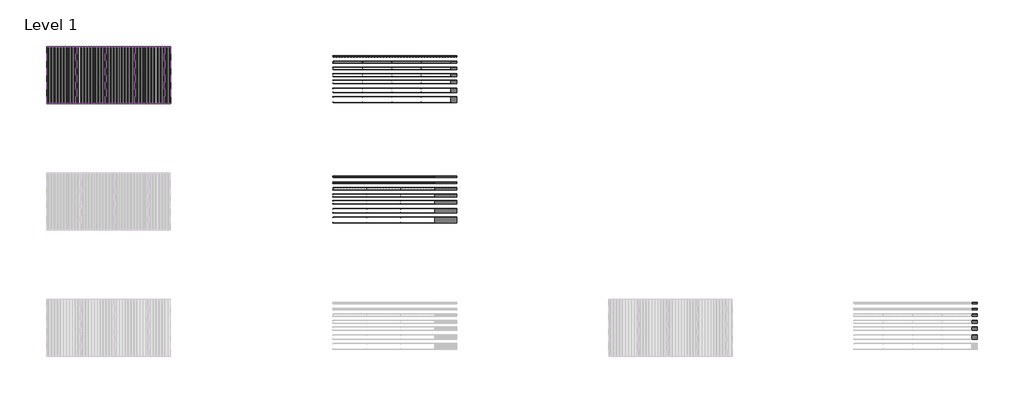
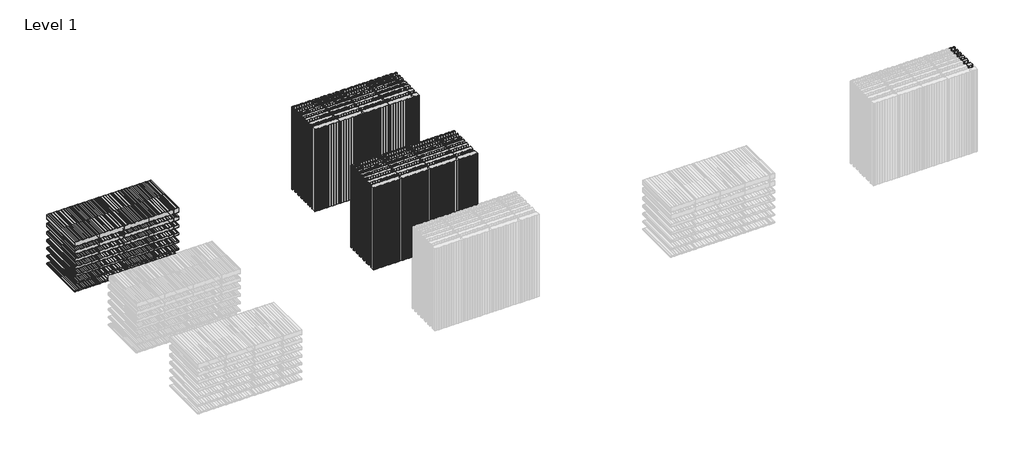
# One storey, part 4 of 4: 104 plates.
"""IFC4 building model written with IfcOpenShell, lengths in millimetres."""

from ifc_helpers import new_model, si_unit, origin, place, context, project, spatial, transform, mapped, element, save
from components import plate_e2519dcc, plate_03b74a93, plate_058e40cf, plate_00faa93f, plate_37207b8e, plate_48b56e83, plate_bfad9969, plate_df710713, plate_73a2f7ae, plate_e8205904, plate_b975286f, plate_f3e37640, plate_21ab614c, plate_76a87134, plate_eed5d6d7, plate_fe154885, plate_0c18fdb0, plate_14de9cfa, plate_5e7b8410, plate_5d81f6bc, plate_d92086c8, plate_5d0e5f40, plate_c8ef7cc6, plate_c1a73980, plate_863052c6, plate_1fcd82a8, plate_dd2a4387, plate_208f2f02, pm1_curtain_panel_746ca4a7, pm1_curtain_panel_331eded3, pm1_curtain_panel_a6e44ccd, pm1_curtain_panel_9475321e, pm1_curtain_panel_b305cc81, pm1_curtain_panel_808d0dd5, pm1_curtain_panel_095ba34b, pm1_curtain_panel_fd7bc9c6, pm1_curtain_panel_e5e13730, pm1_curtain_panel_c46ebac7, pm1_curtain_panel_94fae08d, pm1_curtain_panel_9f690ffb, pm1_curtain_panel_dddb3a22, pm1_curtain_panel_7c5191db, pmh_curtain_panel_micro_ribbed_profile_7f007963, pmh_curtain_panel_micro_ribbed_profile_d62956a7, pmh_curtain_panel_micro_ribbed_profile_b40cf5fc, pmh_curtain_panel_micro_ribbed_profile_82d1a99d, pmh_curtain_panel_micro_ribbed_profile_7fa3ddbd, pmh_curtain_panel_micro_ribbed_profile_9c5b0974

model = new_model("IFC4")

# Units and contexts
model_context = context("Model", 3, world=origin())
ifc_project = project(units=[si_unit("LENGTHUNIT", "METRE", prefix="MILLI")], contexts=[model_context])

# Site, building, storey
site = spatial("IfcSite", under=ifc_project)
building = spatial("IfcBuilding", under=site)
storey = spatial("IfcBuildingStorey", under=building, Name="Level 1", Elevation=0.0)

# Plates
placement = place(None, origin())
plate_shape = plate_e2519dcc(model_context)
element("IfcPlate", 1, ObjectType="PMH_Curtain-PaneL-Standard : ACH_PMH_Stone-wool-Panel_60M", at=placement, inside=storey, context=model_context, shape_type="MappedRepresentation", body=[
    mapped(plate_shape, transform((-10804.4132588, 5320.6868121, 0.0), x_axis=(1.0, 0.0, 0.0), y_axis=(0.0, 1.0, 0.0), z_axis=(0.0, 0.0, 1.0))),
])
element("IfcPlate", 2, ObjectType="PMH_Curtain-PaneL-Standard : ACH_PMH_Stone-wool-Panel_60M", at=placement, inside=storey, context=model_context, shape_type="MappedRepresentation", body=[
    mapped(plate_shape, transform((-9804.4132588, 5320.6868121, 0.0), x_axis=(1.0, 0.0, 0.0), y_axis=(0.0, 1.0, 0.0), z_axis=(0.0, 0.0, 1.0))),
])
element("IfcPlate", 3, ObjectType="PMH_Curtain-PaneL-Standard : ACH_PMH_Stone-wool-Panel_60M", at=placement, inside=storey, context=model_context, shape_type="MappedRepresentation", body=[
    mapped(plate_shape, transform((-8804.4132588, 5320.6868121, 0.0), x_axis=(1.0, 0.0, 0.0), y_axis=(0.0, 1.0, 0.0), z_axis=(0.0, 0.0, 1.0))),
])
element("IfcPlate", 4, ObjectType="PMH_Curtain-PaneL-Standard : ACH_PMH_Stone-wool-Panel_60M", at=placement, inside=storey, context=model_context, shape_type="MappedRepresentation", body=[
    mapped(plate_shape, transform((-7804.4132588, 5320.6868121, 0.0), x_axis=(1.0, 0.0, 0.0), y_axis=(0.0, 1.0, 0.0), z_axis=(0.0, 0.0, 1.0))),
])
plate_2_shape = plate_03b74a93(model_context)
element("IfcPlate", 5, ObjectType="PMH_Curtain-PaneL-Standard : ACH_PMH_Stone-wool-Panel_80M", at=placement, inside=storey, context=model_context, shape_type="MappedRepresentation", body=[
    mapped(plate_2_shape, transform((-10804.4132588, 5120.6868121, 0.0), x_axis=(1.0, 0.0, 0.0), y_axis=(0.0, 1.0, 0.0), z_axis=(0.0, 0.0, 1.0))),
])
element("IfcPlate", 6, ObjectType="PMH_Curtain-PaneL-Standard : ACH_PMH_Stone-wool-Panel_80M", at=placement, inside=storey, context=model_context, shape_type="MappedRepresentation", body=[
    mapped(plate_2_shape, transform((-9804.4132588, 5120.6868121, 0.0), x_axis=(1.0, 0.0, 0.0), y_axis=(0.0, 1.0, 0.0), z_axis=(0.0, 0.0, 1.0))),
])
element("IfcPlate", 7, ObjectType="PMH_Curtain-PaneL-Standard : ACH_PMH_Stone-wool-Panel_80M", at=placement, inside=storey, context=model_context, shape_type="MappedRepresentation", body=[
    mapped(plate_2_shape, transform((-8804.4132588, 5120.6868121, 0.0), x_axis=(1.0, 0.0, 0.0), y_axis=(0.0, 1.0, 0.0), z_axis=(0.0, 0.0, 1.0))),
])
element("IfcPlate", 8, ObjectType="PMH_Curtain-PaneL-Standard : ACH_PMH_Stone-wool-Panel_80M", at=placement, inside=storey, context=model_context, shape_type="MappedRepresentation", body=[
    mapped(plate_2_shape, transform((-7804.4132588, 5120.6868121, 0.0), x_axis=(1.0, 0.0, 0.0), y_axis=(0.0, 1.0, 0.0), z_axis=(0.0, 0.0, 1.0))),
])
plate_3_shape = plate_058e40cf(model_context)
element("IfcPlate", 9, ObjectType="PMH_Curtain-PaneL-Standard : ACH_PMH_Stone-wool-Panel_50M", at=placement, inside=storey, context=model_context, shape_type="MappedRepresentation", body=[
    mapped(plate_3_shape, transform((-10804.4132588, 5520.6868121, 0.0), x_axis=(1.0, 0.0, 0.0), y_axis=(0.0, 1.0, 0.0), z_axis=(0.0, 0.0, 1.0))),
])
element("IfcPlate", 10, ObjectType="PMH_Curtain-PaneL-Standard : ACH_PMH_Stone-wool-Panel_50M", at=placement, inside=storey, context=model_context, shape_type="MappedRepresentation", body=[
    mapped(plate_3_shape, transform((-9804.4132588, 5520.6868121, 0.0), x_axis=(1.0, 0.0, 0.0), y_axis=(0.0, 1.0, 0.0), z_axis=(0.0, 0.0, 1.0))),
])
element("IfcPlate", 11, ObjectType="PMH_Curtain-PaneL-Standard : ACH_PMH_Stone-wool-Panel_50M", at=placement, inside=storey, context=model_context, shape_type="MappedRepresentation", body=[
    mapped(plate_3_shape, transform((-8804.4132588, 5520.6868121, 0.0), x_axis=(1.0, 0.0, 0.0), y_axis=(0.0, 1.0, 0.0), z_axis=(0.0, 0.0, 1.0))),
])
element("IfcPlate", 12, ObjectType="PMH_Curtain-PaneL-Standard : ACH_PMH_Stone-wool-Panel_50M", at=placement, inside=storey, context=model_context, shape_type="MappedRepresentation", body=[
    mapped(plate_3_shape, transform((-7804.4132588, 5520.6868121, 0.0), x_axis=(1.0, 0.0, 0.0), y_axis=(0.0, 1.0, 0.0), z_axis=(0.0, 0.0, 1.0))),
])
plate_4_shape = plate_00faa93f(model_context)
element("IfcPlate", 13, ObjectType="PMH_Curtain-PaneL-Standard : ACH_PMH_Stone-wool-Panel_100M", at=placement, inside=storey, context=model_context, shape_type="MappedRepresentation", body=[
    mapped(plate_4_shape, transform((-10804.4132588, 4904.8868121, 0.0), x_axis=(1.0, 0.0, 0.0), y_axis=(0.0, 1.0, 0.0), z_axis=(0.0, 0.0, 1.0))),
])
element("IfcPlate", 14, ObjectType="PMH_Curtain-PaneL-Standard : ACH_PMH_Stone-wool-Panel_100M", at=placement, inside=storey, context=model_context, shape_type="MappedRepresentation", body=[
    mapped(plate_4_shape, transform((-9804.4132588, 4904.8868121, 0.0), x_axis=(1.0, 0.0, 0.0), y_axis=(0.0, 1.0, 0.0), z_axis=(0.0, 0.0, 1.0))),
])
element("IfcPlate", 15, ObjectType="PMH_Curtain-PaneL-Standard : ACH_PMH_Stone-wool-Panel_100M", at=placement, inside=storey, context=model_context, shape_type="MappedRepresentation", body=[
    mapped(plate_4_shape, transform((-8804.4132588, 4904.8868121, 0.0), x_axis=(1.0, 0.0, 0.0), y_axis=(0.0, 1.0, 0.0), z_axis=(0.0, 0.0, 1.0))),
])
element("IfcPlate", 16, ObjectType="PMH_Curtain-PaneL-Standard : ACH_PMH_Stone-wool-Panel_100M", at=placement, inside=storey, context=model_context, shape_type="MappedRepresentation", body=[
    mapped(plate_4_shape, transform((-7804.4132588, 4904.8868121, 0.0), x_axis=(1.0, 0.0, 0.0), y_axis=(0.0, 1.0, 0.0), z_axis=(0.0, 0.0, 1.0))),
])
plate_5_shape = plate_37207b8e(model_context)
element("IfcPlate", 17, ObjectType="PMH_Curtain-PaneL-Standard : ACH_PMH_Stone-wool-Panel_120M", at=placement, inside=storey, context=model_context, shape_type="MappedRepresentation", body=[
    mapped(plate_5_shape, transform((-10804.4132588, 4684.8868121, 0.0), x_axis=(1.0, 0.0, 0.0), y_axis=(0.0, 1.0, 0.0), z_axis=(0.0, 0.0, 1.0))),
])
element("IfcPlate", 18, ObjectType="PMH_Curtain-PaneL-Standard : ACH_PMH_Stone-wool-Panel_120M", at=placement, inside=storey, context=model_context, shape_type="MappedRepresentation", body=[
    mapped(plate_5_shape, transform((-9804.4132588, 4684.8868121, 0.0), x_axis=(1.0, 0.0, 0.0), y_axis=(0.0, 1.0, 0.0), z_axis=(0.0, 0.0, 1.0))),
])
element("IfcPlate", 19, ObjectType="PMH_Curtain-PaneL-Standard : ACH_PMH_Stone-wool-Panel_120M", at=placement, inside=storey, context=model_context, shape_type="MappedRepresentation", body=[
    mapped(plate_5_shape, transform((-8804.4132588, 4684.8868121, 0.0), x_axis=(1.0, 0.0, 0.0), y_axis=(0.0, 1.0, 0.0), z_axis=(0.0, 0.0, 1.0))),
])
element("IfcPlate", 20, ObjectType="PMH_Curtain-PaneL-Standard : ACH_PMH_Stone-wool-Panel_120M", at=placement, inside=storey, context=model_context, shape_type="MappedRepresentation", body=[
    mapped(plate_5_shape, transform((-7804.4132588, 4684.8868121, 0.0), x_axis=(1.0, 0.0, 0.0), y_axis=(0.0, 1.0, 0.0), z_axis=(0.0, 0.0, 1.0))),
])
plate_6_shape = plate_48b56e83(model_context)
element("IfcPlate", 21, ObjectType="PMH_Curtain-PaneL-Standard : ACH_PMH_Stone-wool-Panel_150M", at=placement, inside=storey, context=model_context, shape_type="MappedRepresentation", body=[
    mapped(plate_6_shape, transform((-10804.4132588, 4409.8868121, 0.0), x_axis=(1.0, 0.0, 0.0), y_axis=(0.0, 1.0, 0.0), z_axis=(0.0, 0.0, 1.0))),
])
element("IfcPlate", 22, ObjectType="PMH_Curtain-PaneL-Standard : ACH_PMH_Stone-wool-Panel_150M", at=placement, inside=storey, context=model_context, shape_type="MappedRepresentation", body=[
    mapped(plate_6_shape, transform((-9804.4132588, 4409.8868121, 0.0), x_axis=(1.0, 0.0, 0.0), y_axis=(0.0, 1.0, 0.0), z_axis=(0.0, 0.0, 1.0))),
])
element("IfcPlate", 23, ObjectType="PMH_Curtain-PaneL-Standard : ACH_PMH_Stone-wool-Panel_150M", at=placement, inside=storey, context=model_context, shape_type="MappedRepresentation", body=[
    mapped(plate_6_shape, transform((-8804.4132588, 4409.8868121, 0.0), x_axis=(1.0, 0.0, 0.0), y_axis=(0.0, 1.0, 0.0), z_axis=(0.0, 0.0, 1.0))),
])
element("IfcPlate", 24, ObjectType="PMH_Curtain-PaneL-Standard : ACH_PMH_Stone-wool-Panel_150M", at=placement, inside=storey, context=model_context, shape_type="MappedRepresentation", body=[
    mapped(plate_6_shape, transform((-7804.4132588, 4409.8868121, 0.0), x_axis=(1.0, 0.0, 0.0), y_axis=(0.0, 1.0, 0.0), z_axis=(0.0, 0.0, 1.0))),
])
plate_7_shape = plate_bfad9969(model_context)
element("IfcPlate", 25, ObjectType="PMH_Curtain-PaneL-Standard : ACH_PMH_Stone-wool-Panel_200M", at=placement, inside=storey, context=model_context, shape_type="MappedRepresentation", body=[
    mapped(plate_7_shape, transform((-10804.4132588, 4119.8868121, 0.0), x_axis=(1.0, 0.0, 0.0), y_axis=(0.0, 1.0, 0.0), z_axis=(0.0, 0.0, 1.0))),
])
element("IfcPlate", 26, ObjectType="PMH_Curtain-PaneL-Standard : ACH_PMH_Stone-wool-Panel_200M", at=placement, inside=storey, context=model_context, shape_type="MappedRepresentation", body=[
    mapped(plate_7_shape, transform((-9804.4132588, 4119.8868121, 0.0), x_axis=(1.0, 0.0, 0.0), y_axis=(0.0, 1.0, 0.0), z_axis=(0.0, 0.0, 1.0))),
])
element("IfcPlate", 27, ObjectType="PMH_Curtain-PaneL-Standard : ACH_PMH_Stone-wool-Panel_200M", at=placement, inside=storey, context=model_context, shape_type="MappedRepresentation", body=[
    mapped(plate_7_shape, transform((-8804.4132588, 4119.8868121, 0.0), x_axis=(1.0, 0.0, 0.0), y_axis=(0.0, 1.0, 0.0), z_axis=(0.0, 0.0, 1.0))),
])
element("IfcPlate", 28, ObjectType="PMH_Curtain-PaneL-Standard : ACH_PMH_Stone-wool-Panel_200M", at=placement, inside=storey, context=model_context, shape_type="MappedRepresentation", body=[
    mapped(plate_7_shape, transform((-7804.4132588, 4119.8868121, 0.0), x_axis=(1.0, 0.0, 0.0), y_axis=(0.0, 1.0, 0.0), z_axis=(0.0, 0.0, 1.0))),
])
plate_8_shape = plate_df710713(model_context)
element("IfcPlate", 29, ObjectType="PMH_Curtain-PaneL-Standard : ACH_PMH_Stone-wool-Panel_50M", at=placement, inside=storey, context=model_context, shape_type="MappedRepresentation", body=[
    mapped(plate_8_shape, transform((-20532.9364012, 3880.2855492, 0.0), x_axis=(1.0, 0.0, 0.0), y_axis=(0.0, 0.0, -1.0), z_axis=(0.0, 1.0, 0.0))),
])
element("IfcPlate", 30, ObjectType="PMH_Curtain-PaneL-Standard : ACH_PMH_Stone-wool-Panel_50M", at=placement, inside=storey, context=model_context, shape_type="MappedRepresentation", body=[
    mapped(plate_8_shape, transform((-19532.9364012, 3880.2855492, 0.0), x_axis=(1.0, 0.0, 0.0), y_axis=(0.0, 0.0, -1.0), z_axis=(0.0, 1.0, 0.0))),
])
element("IfcPlate", 31, ObjectType="PMH_Curtain-PaneL-Standard : ACH_PMH_Stone-wool-Panel_50M", at=placement, inside=storey, context=model_context, shape_type="MappedRepresentation", body=[
    mapped(plate_8_shape, transform((-18532.9364012, 3880.2855492, 0.0), x_axis=(1.0, 0.0, 0.0), y_axis=(0.0, 0.0, -1.0), z_axis=(0.0, 1.0, 0.0))),
])
element("IfcPlate", 32, ObjectType="PMH_Curtain-PaneL-Standard : ACH_PMH_Stone-wool-Panel_50M", at=placement, inside=storey, context=model_context, shape_type="MappedRepresentation", body=[
    mapped(plate_8_shape, transform((-17532.9364012, 3880.2855492, 0.0), x_axis=(1.0, 0.0, 0.0), y_axis=(0.0, 0.0, -1.0), z_axis=(0.0, 1.0, 0.0))),
])
plate_9_shape = plate_73a2f7ae(model_context)
element("IfcPlate", 33, ObjectType="PMH_Curtain-PaneL-Standard : ACH_PMH_Stone-wool-Panel_60M", at=placement, inside=storey, context=model_context, shape_type="MappedRepresentation", body=[
    mapped(plate_9_shape, transform((-20532.9364012, 3880.2855492, 320.0), x_axis=(1.0, 0.0, 0.0), y_axis=(0.0, 0.0, -1.0), z_axis=(0.0, 1.0, 0.0))),
])
element("IfcPlate", 34, ObjectType="PMH_Curtain-PaneL-Standard : ACH_PMH_Stone-wool-Panel_60M", at=placement, inside=storey, context=model_context, shape_type="MappedRepresentation", body=[
    mapped(plate_9_shape, transform((-19532.9364012, 3880.2855492, 320.0), x_axis=(1.0, 0.0, 0.0), y_axis=(0.0, 0.0, -1.0), z_axis=(0.0, 1.0, 0.0))),
])
element("IfcPlate", 35, ObjectType="PMH_Curtain-PaneL-Standard : ACH_PMH_Stone-wool-Panel_60M", at=placement, inside=storey, context=model_context, shape_type="MappedRepresentation", body=[
    mapped(plate_9_shape, transform((-18532.9364012, 3880.2855492, 320.0), x_axis=(1.0, 0.0, 0.0), y_axis=(0.0, 0.0, -1.0), z_axis=(0.0, 1.0, 0.0))),
])
element("IfcPlate", 36, ObjectType="PMH_Curtain-PaneL-Standard : ACH_PMH_Stone-wool-Panel_60M", at=placement, inside=storey, context=model_context, shape_type="MappedRepresentation", body=[
    mapped(plate_9_shape, transform((-17532.9364012, 3880.2855492, 320.0), x_axis=(1.0, 0.0, 0.0), y_axis=(0.0, 0.0, -1.0), z_axis=(0.0, 1.0, 0.0))),
])
plate_10_shape = plate_e8205904(model_context)
element("IfcPlate", 37, ObjectType="PMH_Curtain-PaneL-Standard : ACH_PMH_Stone-wool-Panel_80M", at=placement, inside=storey, context=model_context, shape_type="MappedRepresentation", body=[
    mapped(plate_10_shape, transform((-20532.9364012, 3880.2855492, 640.0), x_axis=(1.0, 0.0, 0.0), y_axis=(0.0, 0.0, -1.0), z_axis=(0.0, 1.0, 0.0))),
])
element("IfcPlate", 38, ObjectType="PMH_Curtain-PaneL-Standard : ACH_PMH_Stone-wool-Panel_80M", at=placement, inside=storey, context=model_context, shape_type="MappedRepresentation", body=[
    mapped(plate_10_shape, transform((-19532.9364012, 3880.2855492, 640.0), x_axis=(1.0, 0.0, 0.0), y_axis=(0.0, 0.0, -1.0), z_axis=(0.0, 1.0, 0.0))),
])
element("IfcPlate", 39, ObjectType="PMH_Curtain-PaneL-Standard : ACH_PMH_Stone-wool-Panel_80M", at=placement, inside=storey, context=model_context, shape_type="MappedRepresentation", body=[
    mapped(plate_10_shape, transform((-18532.9364012, 3880.2855492, 640.0), x_axis=(1.0, 0.0, 0.0), y_axis=(0.0, 0.0, -1.0), z_axis=(0.0, 1.0, 0.0))),
])
element("IfcPlate", 40, ObjectType="PMH_Curtain-PaneL-Standard : ACH_PMH_Stone-wool-Panel_80M", at=placement, inside=storey, context=model_context, shape_type="MappedRepresentation", body=[
    mapped(plate_10_shape, transform((-17532.9364012, 3880.2855492, 640.0), x_axis=(1.0, 0.0, 0.0), y_axis=(0.0, 0.0, -1.0), z_axis=(0.0, 1.0, 0.0))),
])
plate_11_shape = plate_b975286f(model_context)
element("IfcPlate", 41, ObjectType="PMH_Curtain-PaneL-Standard : ACH_PMH_Stone-wool-Panel_100M", at=placement, inside=storey, context=model_context, shape_type="MappedRepresentation", body=[
    mapped(plate_11_shape, transform((-20532.9364012, 3880.2855492, 960.0), x_axis=(1.0, 0.0, 0.0), y_axis=(0.0, 0.0, -1.0), z_axis=(0.0, 1.0, 0.0))),
])
element("IfcPlate", 42, ObjectType="PMH_Curtain-PaneL-Standard : ACH_PMH_Stone-wool-Panel_100M", at=placement, inside=storey, context=model_context, shape_type="MappedRepresentation", body=[
    mapped(plate_11_shape, transform((-19532.9364012, 3880.2855492, 960.0), x_axis=(1.0, 0.0, 0.0), y_axis=(0.0, 0.0, -1.0), z_axis=(0.0, 1.0, 0.0))),
])
element("IfcPlate", 43, ObjectType="PMH_Curtain-PaneL-Standard : ACH_PMH_Stone-wool-Panel_100M", at=placement, inside=storey, context=model_context, shape_type="MappedRepresentation", body=[
    mapped(plate_11_shape, transform((-18532.9364012, 3880.2855492, 960.0), x_axis=(1.0, 0.0, 0.0), y_axis=(0.0, 0.0, -1.0), z_axis=(0.0, 1.0, 0.0))),
])
element("IfcPlate", 44, ObjectType="PMH_Curtain-PaneL-Standard : ACH_PMH_Stone-wool-Panel_100M", at=placement, inside=storey, context=model_context, shape_type="MappedRepresentation", body=[
    mapped(plate_11_shape, transform((-17532.9364012, 3880.2855492, 960.0), x_axis=(1.0, 0.0, 0.0), y_axis=(0.0, 0.0, -1.0), z_axis=(0.0, 1.0, 0.0))),
])
plate_12_shape = plate_f3e37640(model_context)
element("IfcPlate", 45, ObjectType="PMH_Curtain-PaneL-Standard : ACH_PMH_Stone-wool-Panel_50M", at=placement, inside=storey, context=model_context, shape_type="MappedRepresentation", body=[
    mapped(plate_12_shape, transform((-7204.4012848, 5520.6868121, 0.0), x_axis=(1.0, 0.0, 0.0), y_axis=(0.0, 1.0, 0.0), z_axis=(0.0, 0.0, 1.0))),
])
plate_13_shape = plate_21ab614c(model_context)
element("IfcPlate", 46, ObjectType="PMH_Curtain-PaneL-Standard : ACH_PMH_Stone-wool-Panel_60M", at=placement, inside=storey, context=model_context, shape_type="MappedRepresentation", body=[
    mapped(plate_13_shape, transform((-7204.4132588, 5320.6868121, 0.0), x_axis=(1.0, 0.0, 0.0), y_axis=(0.0, 1.0, 0.0), z_axis=(0.0, 0.0, 1.0))),
])
plate_14_shape = plate_76a87134(model_context)
element("IfcPlate", 47, ObjectType="PMH_Curtain-PaneL-Standard : ACH_PMH_Stone-wool-Panel_80M", at=placement, inside=storey, context=model_context, shape_type="MappedRepresentation", body=[
    mapped(plate_14_shape, transform((-7204.4132588, 5120.6868121, 0.0), x_axis=(1.0, 0.0, 0.0), y_axis=(0.0, 1.0, 0.0), z_axis=(0.0, 0.0, 1.0))),
])
plate_15_shape = plate_eed5d6d7(model_context)
element("IfcPlate", 48, ObjectType="PMH_Curtain-PaneL-Standard : ACH_PMH_Stone-wool-Panel_100M", at=placement, inside=storey, context=model_context, shape_type="MappedRepresentation", body=[
    mapped(plate_15_shape, transform((-7204.4132588, 4904.8868121, 0.0), x_axis=(1.0, 0.0, 0.0), y_axis=(0.0, 1.0, 0.0), z_axis=(0.0, 0.0, 1.0))),
])
plate_16_shape = plate_fe154885(model_context)
element("IfcPlate", 49, ObjectType="PMH_Curtain-PaneL-Standard : ACH_PMH_Stone-wool-Panel_120M", at=placement, inside=storey, context=model_context, shape_type="MappedRepresentation", body=[
    mapped(plate_16_shape, transform((-7204.4132588, 4684.8868121, 0.0), x_axis=(1.0, 0.0, 0.0), y_axis=(0.0, 1.0, 0.0), z_axis=(0.0, 0.0, 1.0))),
])
plate_17_shape = plate_0c18fdb0(model_context)
element("IfcPlate", 50, ObjectType="PMH_Curtain-PaneL-Standard : ACH_PMH_Stone-wool-Panel_150M", at=placement, inside=storey, context=model_context, shape_type="MappedRepresentation", body=[
    mapped(plate_17_shape, transform((-7204.4132588, 4409.8868121, 0.0), x_axis=(1.0, 0.0, 0.0), y_axis=(0.0, 1.0, 0.0), z_axis=(0.0, 0.0, 1.0))),
])
plate_18_shape = plate_14de9cfa(model_context)
element("IfcPlate", 51, ObjectType="PMH_Curtain-PaneL-Standard : ACH_PMH_Stone-wool-Panel_200M", at=placement, inside=storey, context=model_context, shape_type="MappedRepresentation", body=[
    mapped(plate_18_shape, transform((-7204.4132588, 4119.8868121, 0.0), x_axis=(1.0, 0.0, 0.0), y_axis=(0.0, 1.0, 0.0), z_axis=(0.0, 0.0, 1.0))),
])
plate_19_shape = plate_5e7b8410(model_context)
element("IfcPlate", 52, ObjectType="PMH_Curtain-PaneL-Standard : ACH_PMH_Stone-wool-Panel_120M", at=placement, inside=storey, context=model_context, shape_type="MappedRepresentation", body=[
    mapped(plate_19_shape, transform((-20532.9364012, 3880.2855492, 1280.0), x_axis=(1.0, 0.0, 0.0), y_axis=(0.0, 0.0, -1.0), z_axis=(0.0, 1.0, 0.0))),
])
element("IfcPlate", 53, ObjectType="PMH_Curtain-PaneL-Standard : ACH_PMH_Stone-wool-Panel_120M", at=placement, inside=storey, context=model_context, shape_type="MappedRepresentation", body=[
    mapped(plate_19_shape, transform((-19532.9364012, 3880.2855492, 1280.0), x_axis=(1.0, 0.0, 0.0), y_axis=(0.0, 0.0, -1.0), z_axis=(0.0, 1.0, 0.0))),
])
element("IfcPlate", 54, ObjectType="PMH_Curtain-PaneL-Standard : ACH_PMH_Stone-wool-Panel_120M", at=placement, inside=storey, context=model_context, shape_type="MappedRepresentation", body=[
    mapped(plate_19_shape, transform((-18532.9364012, 3880.2855492, 1280.0), x_axis=(1.0, 0.0, 0.0), y_axis=(0.0, 0.0, -1.0), z_axis=(0.0, 1.0, 0.0))),
])
element("IfcPlate", 55, ObjectType="PMH_Curtain-PaneL-Standard : ACH_PMH_Stone-wool-Panel_120M", at=placement, inside=storey, context=model_context, shape_type="MappedRepresentation", body=[
    mapped(plate_19_shape, transform((-17532.9364012, 3880.2855492, 1280.0), x_axis=(1.0, 0.0, 0.0), y_axis=(0.0, 0.0, -1.0), z_axis=(0.0, 1.0, 0.0))),
])
plate_20_shape = plate_5d81f6bc(model_context)
element("IfcPlate", 56, ObjectType="PMH_Curtain-PaneL-Standard : ACH_PMH_Stone-wool-Panel_150M", at=placement, inside=storey, context=model_context, shape_type="MappedRepresentation", body=[
    mapped(plate_20_shape, transform((-20532.9364012, 3880.2855492, 1600.0), x_axis=(1.0, 0.0, 0.0), y_axis=(0.0, 0.0, -1.0), z_axis=(0.0, 1.0, 0.0))),
])
element("IfcPlate", 57, ObjectType="PMH_Curtain-PaneL-Standard : ACH_PMH_Stone-wool-Panel_150M", at=placement, inside=storey, context=model_context, shape_type="MappedRepresentation", body=[
    mapped(plate_20_shape, transform((-19532.9364012, 3880.2855492, 1600.0), x_axis=(1.0, 0.0, 0.0), y_axis=(0.0, 0.0, -1.0), z_axis=(0.0, 1.0, 0.0))),
])
element("IfcPlate", 58, ObjectType="PMH_Curtain-PaneL-Standard : ACH_PMH_Stone-wool-Panel_150M", at=placement, inside=storey, context=model_context, shape_type="MappedRepresentation", body=[
    mapped(plate_20_shape, transform((-18532.9364012, 3880.2855492, 1600.0), x_axis=(1.0, 0.0, 0.0), y_axis=(0.0, 0.0, -1.0), z_axis=(0.0, 1.0, 0.0))),
])
element("IfcPlate", 59, ObjectType="PMH_Curtain-PaneL-Standard : ACH_PMH_Stone-wool-Panel_150M", at=placement, inside=storey, context=model_context, shape_type="MappedRepresentation", body=[
    mapped(plate_20_shape, transform((-17532.9364012, 3880.2855492, 1600.0), x_axis=(1.0, 0.0, 0.0), y_axis=(0.0, 0.0, -1.0), z_axis=(0.0, 1.0, 0.0))),
])
plate_21_shape = plate_d92086c8(model_context)
element("IfcPlate", 60, ObjectType="PMH_Curtain-PaneL-Standard : ACH_PMH_Stone-wool-Panel_200M", at=placement, inside=storey, context=model_context, shape_type="MappedRepresentation", body=[
    mapped(plate_21_shape, transform((-20532.9364012, 3880.2855492, 1920.0), x_axis=(1.0, 0.0, 0.0), y_axis=(0.0, 0.0, -1.0), z_axis=(0.0, 1.0, 0.0))),
])
element("IfcPlate", 61, ObjectType="PMH_Curtain-PaneL-Standard : ACH_PMH_Stone-wool-Panel_200M", at=placement, inside=storey, context=model_context, shape_type="MappedRepresentation", body=[
    mapped(plate_21_shape, transform((-19532.9364012, 3880.2855492, 1920.0), x_axis=(1.0, 0.0, 0.0), y_axis=(0.0, 0.0, -1.0), z_axis=(0.0, 1.0, 0.0))),
])
element("IfcPlate", 62, ObjectType="PMH_Curtain-PaneL-Standard : ACH_PMH_Stone-wool-Panel_200M", at=placement, inside=storey, context=model_context, shape_type="MappedRepresentation", body=[
    mapped(plate_21_shape, transform((-18532.9364012, 3880.2855492, 1920.0), x_axis=(1.0, 0.0, 0.0), y_axis=(0.0, 0.0, -1.0), z_axis=(0.0, 1.0, 0.0))),
])
element("IfcPlate", 63, ObjectType="PMH_Curtain-PaneL-Standard : ACH_PMH_Stone-wool-Panel_200M", at=placement, inside=storey, context=model_context, shape_type="MappedRepresentation", body=[
    mapped(plate_21_shape, transform((-17532.9364012, 3880.2855492, 1920.0), x_axis=(1.0, 0.0, 0.0), y_axis=(0.0, 0.0, -1.0), z_axis=(0.0, 1.0, 0.0))),
])
plate_22_shape = plate_5d0e5f40(model_context)
element("IfcPlate", 64, ObjectType="PMH_Curtain-PaneL-Standard : ACH_PMH_Stone-wool-Panel_50M", at=placement, inside=storey, context=model_context, shape_type="MappedRepresentation", body=[
    mapped(plate_22_shape, transform((-16932.9244272, 3880.2855492, 0.0), x_axis=(1.0, 0.0, 0.0), y_axis=(0.0, 0.0, -1.0), z_axis=(0.0, 1.0, 0.0))),
])
plate_23_shape = plate_c8ef7cc6(model_context)
element("IfcPlate", 65, ObjectType="PMH_Curtain-PaneL-Standard : ACH_PMH_Stone-wool-Panel_60M", at=placement, inside=storey, context=model_context, shape_type="MappedRepresentation", body=[
    mapped(plate_23_shape, transform((-16932.9244272, 3880.2855492, 320.0), x_axis=(1.0, 0.0, 0.0), y_axis=(0.0, 0.0, -1.0), z_axis=(0.0, 1.0, 0.0))),
])
plate_24_shape = plate_c1a73980(model_context)
element("IfcPlate", 66, ObjectType="PMH_Curtain-PaneL-Standard : ACH_PMH_Stone-wool-Panel_80M", at=placement, inside=storey, context=model_context, shape_type="MappedRepresentation", body=[
    mapped(plate_24_shape, transform((-16932.9244272, 3880.2855492, 640.0), x_axis=(1.0, 0.0, 0.0), y_axis=(0.0, 0.0, -1.0), z_axis=(0.0, 1.0, 0.0))),
])
plate_25_shape = plate_863052c6(model_context)
element("IfcPlate", 67, ObjectType="PMH_Curtain-PaneL-Standard : ACH_PMH_Stone-wool-Panel_100M", at=placement, inside=storey, context=model_context, shape_type="MappedRepresentation", body=[
    mapped(plate_25_shape, transform((-16932.9244272, 3880.2855492, 960.0), x_axis=(1.0, 0.0, 0.0), y_axis=(0.0, 0.0, -1.0), z_axis=(0.0, 1.0, 0.0))),
])
plate_26_shape = plate_1fcd82a8(model_context)
element("IfcPlate", 68, ObjectType="PMH_Curtain-PaneL-Standard : ACH_PMH_Stone-wool-Panel_120M", at=placement, inside=storey, context=model_context, shape_type="MappedRepresentation", body=[
    mapped(plate_26_shape, transform((-16932.9244272, 3880.2855492, 1280.0), x_axis=(1.0, 0.0, 0.0), y_axis=(0.0, 0.0, -1.0), z_axis=(0.0, 1.0, 0.0))),
])
plate_27_shape = plate_dd2a4387(model_context)
element("IfcPlate", 69, ObjectType="PMH_Curtain-PaneL-Standard : ACH_PMH_Stone-wool-Panel_150M", at=placement, inside=storey, context=model_context, shape_type="MappedRepresentation", body=[
    mapped(plate_27_shape, transform((-16932.9244272, 3880.2855492, 1600.0), x_axis=(1.0, 0.0, 0.0), y_axis=(0.0, 0.0, -1.0), z_axis=(0.0, 1.0, 0.0))),
])
plate_28_shape = plate_208f2f02(model_context)
element("IfcPlate", 70, ObjectType="PMH_Curtain-PaneL-Standard : ACH_PMH_Stone-wool-Panel_200M", at=placement, inside=storey, context=model_context, shape_type="MappedRepresentation", body=[
    mapped(plate_28_shape, transform((-16932.9244272, 3880.2855492, 1920.0), x_axis=(1.0, 0.0, 0.0), y_axis=(0.0, 0.0, -1.0), z_axis=(0.0, 1.0, 0.0))),
])
pm1_curtain_panel_shape = pm1_curtain_panel_746ca4a7(model_context)
element("IfcPlate", 71, ObjectType="PM1_Curtain-Panel : ACH_PM1_Stone-wool-Panel_60M", at=placement, inside=storey, context=model_context, shape_type="MappedRepresentation", body=[
    mapped(pm1_curtain_panel_shape, transform((-10729.4132588, 1220.6868121, 0.0), x_axis=(1.0, 0.0, 0.0), y_axis=(0.0, 1.0, 0.0), z_axis=(0.0, 0.0, 1.0))),
])
element("IfcPlate", 72, ObjectType="PM1_Curtain-Panel : ACH_PM1_Stone-wool-Panel_60M", at=placement, inside=storey, context=model_context, shape_type="MappedRepresentation", body=[
    mapped(pm1_curtain_panel_shape, transform((-9579.4132588, 1220.6868121, 0.0), x_axis=(1.0, 0.0, 0.0), y_axis=(0.0, 1.0, 0.0), z_axis=(0.0, 0.0, 1.0))),
])
element("IfcPlate", 73, ObjectType="PM1_Curtain-Panel : ACH_PM1_Stone-wool-Panel_60M", at=placement, inside=storey, context=model_context, shape_type="MappedRepresentation", body=[
    mapped(pm1_curtain_panel_shape, transform((-8429.4132588, 1220.6868121, 0.0), x_axis=(1.0, 0.0, 0.0), y_axis=(0.0, 1.0, 0.0), z_axis=(0.0, 0.0, 1.0))),
])
pm1_curtain_panel_2_shape = pm1_curtain_panel_331eded3(model_context)
element("IfcPlate", 74, ObjectType="PM1_Curtain-Panel : ACH_PM1_Stone-wool-Panel_60M", at=placement, inside=storey, context=model_context, shape_type="MappedRepresentation", body=[
    mapped(pm1_curtain_panel_2_shape, transform((-7479.4132588, 1220.6868121, 0.0), x_axis=(1.0, 0.0, 0.0), y_axis=(0.0, 1.0, 0.0), z_axis=(0.0, 0.0, 1.0))),
])
pm1_curtain_panel_3_shape = pm1_curtain_panel_a6e44ccd(model_context)
element("IfcPlate", 75, ObjectType="PM1_Curtain-Panel : ACH_PM1_Stone-wool-Panel_80M", at=placement, inside=storey, context=model_context, shape_type="MappedRepresentation", body=[
    mapped(pm1_curtain_panel_3_shape, transform((-10729.4132588, 1020.6868121, 0.0), x_axis=(1.0, 0.0, 0.0), y_axis=(0.0, 1.0, 0.0), z_axis=(0.0, 0.0, 1.0))),
])
element("IfcPlate", 76, ObjectType="PM1_Curtain-Panel : ACH_PM1_Stone-wool-Panel_80M", at=placement, inside=storey, context=model_context, shape_type="MappedRepresentation", body=[
    mapped(pm1_curtain_panel_3_shape, transform((-9579.4132588, 1020.6868121, 0.0), x_axis=(1.0, 0.0, 0.0), y_axis=(0.0, 1.0, 0.0), z_axis=(0.0, 0.0, 1.0))),
])
element("IfcPlate", 77, ObjectType="PM1_Curtain-Panel : ACH_PM1_Stone-wool-Panel_80M", at=placement, inside=storey, context=model_context, shape_type="MappedRepresentation", body=[
    mapped(pm1_curtain_panel_3_shape, transform((-8429.4132588, 1020.6868121, 0.0), x_axis=(1.0, 0.0, 0.0), y_axis=(0.0, 1.0, 0.0), z_axis=(0.0, 0.0, 1.0))),
])
pm1_curtain_panel_4_shape = pm1_curtain_panel_9475321e(model_context)
element("IfcPlate", 78, ObjectType="PM1_Curtain-Panel : ACH_PM1_Stone-wool-Panel_80M", at=placement, inside=storey, context=model_context, shape_type="MappedRepresentation", body=[
    mapped(pm1_curtain_panel_4_shape, transform((-7479.4132588, 1020.6868121, 0.0), x_axis=(1.0, 0.0, 0.0), y_axis=(0.0, 1.0, 0.0), z_axis=(0.0, 0.0, 1.0))),
])
pm1_curtain_panel_5_shape = pm1_curtain_panel_b305cc81(model_context)
element("IfcPlate", 79, ObjectType="PM1_Curtain-Panel : ACH_PM1_Stone-wool-Panel_50M", at=placement, inside=storey, context=model_context, shape_type="MappedRepresentation", body=[
    mapped(pm1_curtain_panel_5_shape, transform((-10729.4132588, 1420.6868121, 0.0), x_axis=(1.0, 0.0, 0.0), y_axis=(0.0, 1.0, 0.0), z_axis=(0.0, 0.0, 1.0))),
])
element("IfcPlate", 80, ObjectType="PM1_Curtain-Panel : ACH_PM1_Stone-wool-Panel_50M", at=placement, inside=storey, context=model_context, shape_type="MappedRepresentation", body=[
    mapped(pm1_curtain_panel_5_shape, transform((-9579.4132588, 1420.6868121, 0.0), x_axis=(1.0, 0.0, 0.0), y_axis=(0.0, 1.0, 0.0), z_axis=(0.0, 0.0, 1.0))),
])
element("IfcPlate", 81, ObjectType="PM1_Curtain-Panel : ACH_PM1_Stone-wool-Panel_50M", at=placement, inside=storey, context=model_context, shape_type="MappedRepresentation", body=[
    mapped(pm1_curtain_panel_5_shape, transform((-8429.4132588, 1420.6868121, 0.0), x_axis=(1.0, 0.0, 0.0), y_axis=(0.0, 1.0, 0.0), z_axis=(0.0, 0.0, 1.0))),
])
pm1_curtain_panel_6_shape = pm1_curtain_panel_808d0dd5(model_context)
element("IfcPlate", 82, ObjectType="PM1_Curtain-Panel : ACH_PM1_Stone-wool-Panel_50M", at=placement, inside=storey, context=model_context, shape_type="MappedRepresentation", body=[
    mapped(pm1_curtain_panel_6_shape, transform((-7479.4012848, 1420.6868121, 0.0), x_axis=(1.0, 0.0, 0.0), y_axis=(0.0, 1.0, 0.0), z_axis=(0.0, 0.0, 1.0))),
])
pm1_curtain_panel_7_shape = pm1_curtain_panel_095ba34b(model_context)
element("IfcPlate", 83, ObjectType="PM1_Curtain-Panel : ACH_PM1_Stone-wool-Panel_100M", at=placement, inside=storey, context=model_context, shape_type="MappedRepresentation", body=[
    mapped(pm1_curtain_panel_7_shape, transform((-10729.4132588, 804.8868121, 0.0), x_axis=(1.0, 0.0, 0.0), y_axis=(0.0, 1.0, 0.0), z_axis=(0.0, 0.0, 1.0))),
])
element("IfcPlate", 84, ObjectType="PM1_Curtain-Panel : ACH_PM1_Stone-wool-Panel_100M", at=placement, inside=storey, context=model_context, shape_type="MappedRepresentation", body=[
    mapped(pm1_curtain_panel_7_shape, transform((-9579.4132588, 804.8868121, 0.0), x_axis=(1.0, 0.0, 0.0), y_axis=(0.0, 1.0, 0.0), z_axis=(0.0, 0.0, 1.0))),
])
element("IfcPlate", 85, ObjectType="PM1_Curtain-Panel : ACH_PM1_Stone-wool-Panel_100M", at=placement, inside=storey, context=model_context, shape_type="MappedRepresentation", body=[
    mapped(pm1_curtain_panel_7_shape, transform((-8429.4132588, 804.8868121, 0.0), x_axis=(1.0, 0.0, 0.0), y_axis=(0.0, 1.0, 0.0), z_axis=(0.0, 0.0, 1.0))),
])
pm1_curtain_panel_8_shape = pm1_curtain_panel_fd7bc9c6(model_context)
element("IfcPlate", 86, ObjectType="PM1_Curtain-Panel : ACH_PM1_Stone-wool-Panel_100M", at=placement, inside=storey, context=model_context, shape_type="MappedRepresentation", body=[
    mapped(pm1_curtain_panel_8_shape, transform((-7479.4132588, 804.8868121, 0.0), x_axis=(1.0, 0.0, 0.0), y_axis=(0.0, 1.0, 0.0), z_axis=(0.0, 0.0, 1.0))),
])
pm1_curtain_panel_9_shape = pm1_curtain_panel_e5e13730(model_context)
element("IfcPlate", 87, ObjectType="PM1_Curtain-Panel : ACH_PM1_Stone-wool-Panel_120M", at=placement, inside=storey, context=model_context, shape_type="MappedRepresentation", body=[
    mapped(pm1_curtain_panel_9_shape, transform((-10729.4132588, 584.8868121, 0.0), x_axis=(1.0, 0.0, 0.0), y_axis=(0.0, 1.0, 0.0), z_axis=(0.0, 0.0, 1.0))),
])
element("IfcPlate", 88, ObjectType="PM1_Curtain-Panel : ACH_PM1_Stone-wool-Panel_120M", at=placement, inside=storey, context=model_context, shape_type="MappedRepresentation", body=[
    mapped(pm1_curtain_panel_9_shape, transform((-9579.4132588, 584.8868121, 0.0), x_axis=(1.0, 0.0, 0.0), y_axis=(0.0, 1.0, 0.0), z_axis=(0.0, 0.0, 1.0))),
])
element("IfcPlate", 89, ObjectType="PM1_Curtain-Panel : ACH_PM1_Stone-wool-Panel_120M", at=placement, inside=storey, context=model_context, shape_type="MappedRepresentation", body=[
    mapped(pm1_curtain_panel_9_shape, transform((-8429.4132588, 584.8868121, 0.0), x_axis=(1.0, 0.0, 0.0), y_axis=(0.0, 1.0, 0.0), z_axis=(0.0, 0.0, 1.0))),
])
pm1_curtain_panel_10_shape = pm1_curtain_panel_c46ebac7(model_context)
element("IfcPlate", 90, ObjectType="PM1_Curtain-Panel : ACH_PM1_Stone-wool-Panel_120M", at=placement, inside=storey, context=model_context, shape_type="MappedRepresentation", body=[
    mapped(pm1_curtain_panel_10_shape, transform((-7479.4132588, 584.8868121, 0.0), x_axis=(1.0, 0.0, 0.0), y_axis=(0.0, 1.0, 0.0), z_axis=(0.0, 0.0, 1.0))),
])
pm1_curtain_panel_11_shape = pm1_curtain_panel_94fae08d(model_context)
element("IfcPlate", 91, ObjectType="PM1_Curtain-Panel : ACH_PM1_Stone-wool-Panel_150M", at=placement, inside=storey, context=model_context, shape_type="MappedRepresentation", body=[
    mapped(pm1_curtain_panel_11_shape, transform((-10729.4132588, 309.8868121, 0.0), x_axis=(1.0, 0.0, 0.0), y_axis=(0.0, 1.0, 0.0), z_axis=(0.0, 0.0, 1.0))),
])
element("IfcPlate", 92, ObjectType="PM1_Curtain-Panel : ACH_PM1_Stone-wool-Panel_150M", at=placement, inside=storey, context=model_context, shape_type="MappedRepresentation", body=[
    mapped(pm1_curtain_panel_11_shape, transform((-9579.4132588, 309.8868121, 0.0), x_axis=(1.0, 0.0, 0.0), y_axis=(0.0, 1.0, 0.0), z_axis=(0.0, 0.0, 1.0))),
])
element("IfcPlate", 93, ObjectType="PM1_Curtain-Panel : ACH_PM1_Stone-wool-Panel_150M", at=placement, inside=storey, context=model_context, shape_type="MappedRepresentation", body=[
    mapped(pm1_curtain_panel_11_shape, transform((-8429.4132588, 309.8868121, 0.0), x_axis=(1.0, 0.0, 0.0), y_axis=(0.0, 1.0, 0.0), z_axis=(0.0, 0.0, 1.0))),
])
pm1_curtain_panel_12_shape = pm1_curtain_panel_9f690ffb(model_context)
element("IfcPlate", 94, ObjectType="PM1_Curtain-Panel : ACH_PM1_Stone-wool-Panel_150M", at=placement, inside=storey, context=model_context, shape_type="MappedRepresentation", body=[
    mapped(pm1_curtain_panel_12_shape, transform((-7479.4132588, 309.8868121, 0.0), x_axis=(1.0, 0.0, 0.0), y_axis=(0.0, 1.0, 0.0), z_axis=(0.0, 0.0, 1.0))),
])
pm1_curtain_panel_13_shape = pm1_curtain_panel_dddb3a22(model_context)
element("IfcPlate", 95, ObjectType="PM1_Curtain-Panel : ACH_PM1_Stone-wool-Panel_200M", at=placement, inside=storey, context=model_context, shape_type="MappedRepresentation", body=[
    mapped(pm1_curtain_panel_13_shape, transform((-10729.4132588, 19.8868121, 0.0), x_axis=(1.0, 0.0, 0.0), y_axis=(0.0, 1.0, 0.0), z_axis=(0.0, 0.0, 1.0))),
])
element("IfcPlate", 96, ObjectType="PM1_Curtain-Panel : ACH_PM1_Stone-wool-Panel_200M", at=placement, inside=storey, context=model_context, shape_type="MappedRepresentation", body=[
    mapped(pm1_curtain_panel_13_shape, transform((-9579.4132588, 19.8868121, 0.0), x_axis=(1.0, 0.0, 0.0), y_axis=(0.0, 1.0, 0.0), z_axis=(0.0, 0.0, 1.0))),
])
element("IfcPlate", 97, ObjectType="PM1_Curtain-Panel : ACH_PM1_Stone-wool-Panel_200M", at=placement, inside=storey, context=model_context, shape_type="MappedRepresentation", body=[
    mapped(pm1_curtain_panel_13_shape, transform((-8429.4132588, 19.8868121, 0.0), x_axis=(1.0, 0.0, 0.0), y_axis=(0.0, 1.0, 0.0), z_axis=(0.0, 0.0, 1.0))),
])
pm1_curtain_panel_14_shape = pm1_curtain_panel_7c5191db(model_context)
element("IfcPlate", 98, ObjectType="PM1_Curtain-Panel : ACH_PM1_Stone-wool-Panel_200M", at=placement, inside=storey, context=model_context, shape_type="MappedRepresentation", body=[
    mapped(pm1_curtain_panel_14_shape, transform((-7479.4132588, 19.8868121, 0.0), x_axis=(1.0, 0.0, 0.0), y_axis=(0.0, 1.0, 0.0), z_axis=(0.0, 0.0, 1.0))),
])
pmh_curtain_panel_micro_ribbed_profile_shape = pmh_curtain_panel_micro_ribbed_profile_7f007963(model_context)
element("IfcPlate", 99, ObjectType="PMH_Curtain-Panel_Micro-ribbed-profile : ACH_PMH_Stone-wool-Panel_50M", at=placement, inside=storey, context=model_context, shape_type="MappedRepresentation", body=[
    mapped(pmh_curtain_panel_micro_ribbed_profile_shape, transform((10495.5987152, -2879.3131879, 0.0), x_axis=(1.0, 0.0, 0.0), y_axis=(0.0, 1.0, 0.0), z_axis=(0.0, 0.0, 1.0))),
])
pmh_curtain_panel_micro_ribbed_profile_2_shape = pmh_curtain_panel_micro_ribbed_profile_d62956a7(model_context)
element("IfcPlate", 100, ObjectType="PMH_Curtain-Panel_Micro-ribbed-profile : ACH_PMH_Stone-wool-Panel_60M", at=placement, inside=storey, context=model_context, shape_type="MappedRepresentation", body=[
    mapped(pmh_curtain_panel_micro_ribbed_profile_2_shape, transform((10495.5867412, -3079.3131879, 0.0), x_axis=(1.0, 0.0, 0.0), y_axis=(0.0, 1.0, 0.0), z_axis=(0.0, 0.0, 1.0))),
])
pmh_curtain_panel_micro_ribbed_profile_3_shape = pmh_curtain_panel_micro_ribbed_profile_b40cf5fc(model_context)
element("IfcPlate", 101, ObjectType="PMH_Curtain-Panel_Micro-ribbed-profile : ACH_PMH_Stone-wool-Panel_80M", at=placement, inside=storey, context=model_context, shape_type="MappedRepresentation", body=[
    mapped(pmh_curtain_panel_micro_ribbed_profile_3_shape, transform((10495.5867412, -3279.3131879, 0.0), x_axis=(1.0, 0.0, 0.0), y_axis=(0.0, 1.0, 0.0), z_axis=(0.0, 0.0, 1.0))),
])
pmh_curtain_panel_micro_ribbed_profile_4_shape = pmh_curtain_panel_micro_ribbed_profile_82d1a99d(model_context)
element("IfcPlate", 102, ObjectType="PMH_Curtain-Panel_Micro-ribbed-profile : ACH_PMH_Stone-wool-Panel_100M", at=placement, inside=storey, context=model_context, shape_type="MappedRepresentation", body=[
    mapped(pmh_curtain_panel_micro_ribbed_profile_4_shape, transform((10495.5867412, -3495.1131879, 0.0), x_axis=(1.0, 0.0, 0.0), y_axis=(0.0, 1.0, 0.0), z_axis=(0.0, 0.0, 1.0))),
])
pmh_curtain_panel_micro_ribbed_profile_5_shape = pmh_curtain_panel_micro_ribbed_profile_7fa3ddbd(model_context)
element("IfcPlate", 103, ObjectType="PMH_Curtain-Panel_Micro-ribbed-profile : ACH_PMH_Stone-wool-Panel_120M", at=placement, inside=storey, context=model_context, shape_type="MappedRepresentation", body=[
    mapped(pmh_curtain_panel_micro_ribbed_profile_5_shape, transform((10495.5867412, -3715.1131879, 0.0), x_axis=(1.0, 0.0, 0.0), y_axis=(0.0, 1.0, 0.0), z_axis=(0.0, 0.0, 1.0))),
])
pmh_curtain_panel_micro_ribbed_profile_6_shape = pmh_curtain_panel_micro_ribbed_profile_9c5b0974(model_context)
element("IfcPlate", 104, ObjectType="PMH_Curtain-Panel_Micro-ribbed-profile : ACH_PMH_Stone-wool-Panel_150M", at=placement, inside=storey, context=model_context, shape_type="MappedRepresentation", body=[
    mapped(pmh_curtain_panel_micro_ribbed_profile_6_shape, transform((10495.5867412, -3990.1131879, 0.0), x_axis=(1.0, 0.0, 0.0), y_axis=(0.0, 1.0, 0.0), z_axis=(0.0, 0.0, 1.0))),
])

save(model, "model.ifc")
